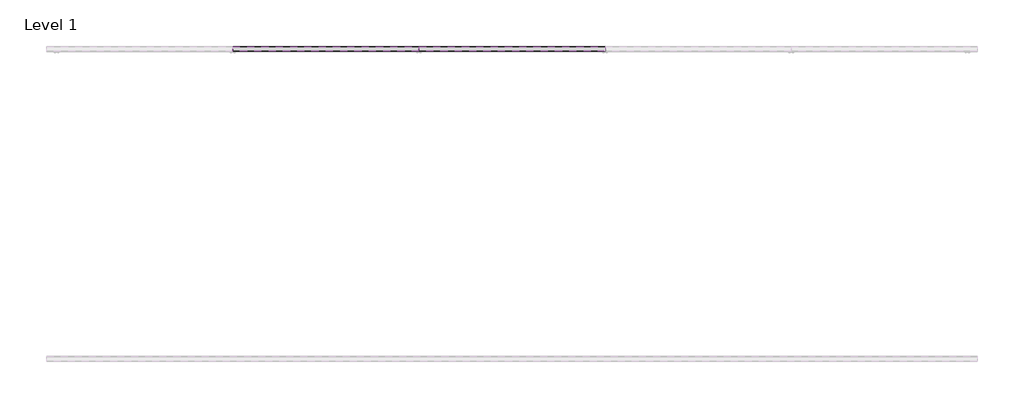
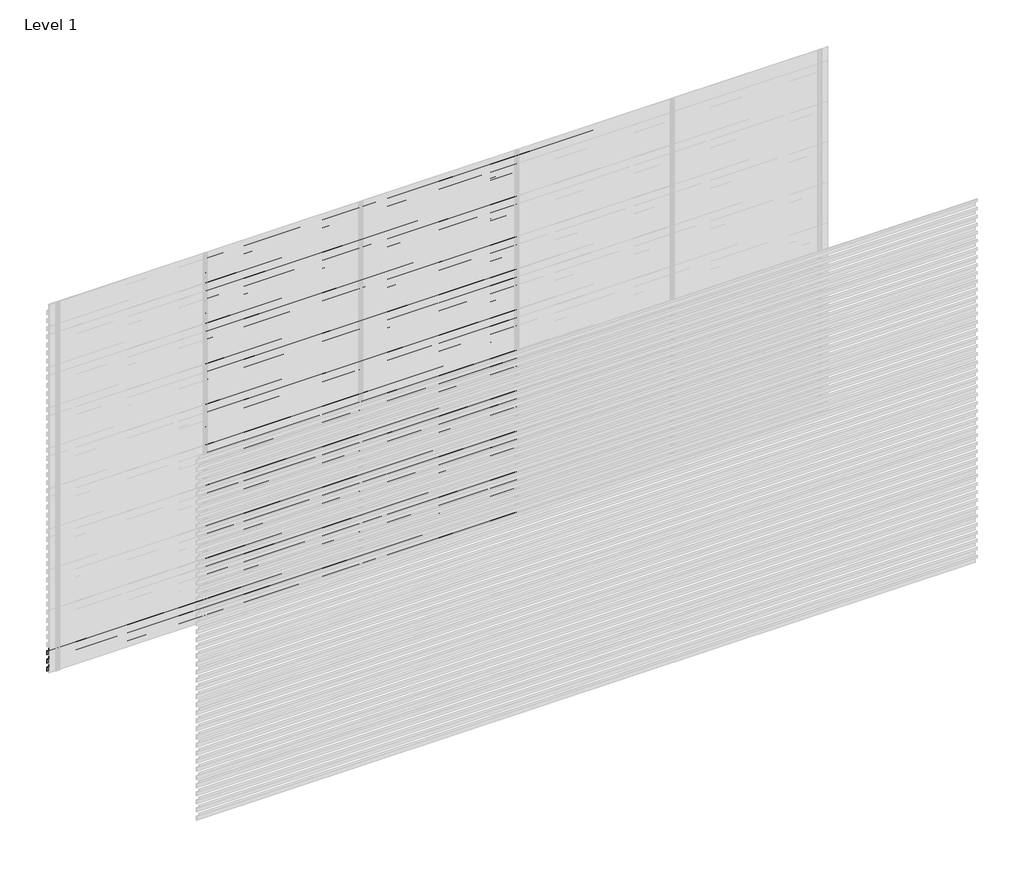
# One storey, part 32 of 33: 94 proxies.
"""IFC4 building model written with IfcOpenShell, lengths in millimetres."""

from ifc_helpers import new_model, si_unit, frame, origin, place, context, project, spatial, polyline, outline, extrude, element, save

model = new_model("IFC4")

# Units and contexts
model_context = context("Model", 3, world=origin())
ifc_project = project(units=[si_unit("LENGTHUNIT", "METRE", prefix="MILLI")], contexts=[model_context])

# Site, building, storey
site = spatial("IfcSite", under=ifc_project)
building = spatial("IfcBuilding", under=site)
storey = spatial("IfcBuildingStorey", under=building, Name="Level 1", Elevation=0.0)

# Proxies
placement = place(None, origin())
element("IfcBuildingElementProxy", 1, Name="Wall Sweeps", at=placement, inside=storey, context=model_context, shape_type="SweptSolid", body=[
    extrude(outline(polyline([(33.0, 158.0), (33.0, 125.0), (31.75, 125.7216933), (31.75, 157.2872415), (2.0, 178.0588647), (2.0, 198.0), (3.25, 198.0), (3.25, 178.7716232), (33.0, 158.0)])), frame((0.0, 0.0, 0.0), z_axis=(1.0, 0.0, 0.0), x_axis=(0.0, 1.0, 0.0)), (0.0, 0.0, 1.0), 1200.0),
])
element("IfcBuildingElementProxy", 2, Name="Wall Sweeps", at=placement, inside=storey, context=model_context, shape_type="SweptSolid", body=[
    extrude(outline(polyline([(33.0, 92.0), (33.0, 59.0), (31.75, 59.7216933), (31.75, 91.2872415), (2.0, 112.0588647), (2.0, 132.0), (3.25, 132.0), (3.25, 112.7716232), (33.0, 92.0)])), frame((0.0, 0.0, 0.0), z_axis=(1.0, 0.0, 0.0), x_axis=(0.0, 1.0, 0.0)), (0.0, 0.0, 1.0), 1200.0),
])
element("IfcBuildingElementProxy", 3, Name="Wall Sweeps", at=placement, inside=storey, context=model_context, shape_type="SweptSolid", body=[
    extrude(outline(polyline([(33.0, 26.0), (33.0, -7.0), (31.75, -6.2783067), (31.75, 25.2872415), (2.0, 46.0588647), (2.0, 66.0), (3.25, 66.0), (3.25, 46.7716232), (33.0, 26.0)])), frame((0.0, 0.0, 0.0), z_axis=(1.0, 0.0, 0.0), x_axis=(0.0, 1.0, 0.0)), (0.0, 0.0, 1.0), 1200.0),
])
element("IfcBuildingElementProxy", 4, Name="Wall Sweeps", at=placement, inside=storey, context=model_context, shape_type="SweptSolid", body=[
    extrude(outline(polyline([(33.0, 2930.0), (33.0, 2897.0), (31.75, 2897.7216933), (31.75, 2929.2872415), (2.0, 2950.0588647), (2.0, 2970.0), (3.25, 2970.0), (3.25, 2950.7716232), (33.0, 2930.0)])), frame((1200.0, 0.0, 0.0), z_axis=(1.0, 0.0, 0.0), x_axis=(0.0, 1.0, 0.0)), (0.0, 0.0, 1.0), 1200.0),
])
element("IfcBuildingElementProxy", 5, Name="Wall Sweeps", at=placement, inside=storey, context=model_context, shape_type="SweptSolid", body=[
    extrude(outline(polyline([(33.0, 2864.0), (33.0, 2831.0), (31.75, 2831.7216933), (31.75, 2863.2872415), (2.0, 2884.0588647), (2.0, 2904.0), (3.25, 2904.0), (3.25, 2884.7716232), (33.0, 2864.0)])), frame((1200.0, 0.0, 0.0), z_axis=(1.0, 0.0, 0.0), x_axis=(0.0, 1.0, 0.0)), (0.0, 0.0, 1.0), 1200.0),
])
element("IfcBuildingElementProxy", 6, Name="Wall Sweeps", at=placement, inside=storey, context=model_context, shape_type="SweptSolid", body=[
    extrude(outline(polyline([(33.0, 2798.0), (33.0, 2765.0), (31.75, 2765.7216933), (31.75, 2797.2872415), (2.0, 2818.0588647), (2.0, 2838.0), (3.25, 2838.0), (3.25, 2818.7716232), (33.0, 2798.0)])), frame((1200.0, 0.0, 0.0), z_axis=(1.0, 0.0, 0.0), x_axis=(0.0, 1.0, 0.0)), (0.0, 0.0, 1.0), 1200.0),
])
element("IfcBuildingElementProxy", 7, Name="Wall Sweeps", at=placement, inside=storey, context=model_context, shape_type="SweptSolid", body=[
    extrude(outline(polyline([(33.0, 2732.0), (33.0, 2699.0), (31.75, 2699.7216933), (31.75, 2731.2872415), (2.0, 2752.0588647), (2.0, 2772.0), (3.25, 2772.0), (3.25, 2752.7716232), (33.0, 2732.0)])), frame((1200.0, 0.0, 0.0), z_axis=(1.0, 0.0, 0.0), x_axis=(0.0, 1.0, 0.0)), (0.0, 0.0, 1.0), 1200.0),
])
element("IfcBuildingElementProxy", 8, Name="Wall Sweeps", at=placement, inside=storey, context=model_context, shape_type="SweptSolid", body=[
    extrude(outline(polyline([(33.0, 2666.0), (33.0, 2633.0), (31.75, 2633.7216933), (31.75, 2665.2872415), (2.0, 2686.0588647), (2.0, 2706.0), (3.25, 2706.0), (3.25, 2686.7716232), (33.0, 2666.0)])), frame((1200.0, 0.0, 0.0), z_axis=(1.0, 0.0, 0.0), x_axis=(0.0, 1.0, 0.0)), (0.0, 0.0, 1.0), 1200.0),
])
element("IfcBuildingElementProxy", 9, Name="Wall Sweeps", at=placement, inside=storey, context=model_context, shape_type="SweptSolid", body=[
    extrude(outline(polyline([(33.0, 2600.0), (33.0, 2567.0), (31.75, 2567.7216933), (31.75, 2599.2872415), (2.0, 2620.0588647), (2.0, 2640.0), (3.25, 2640.0), (3.25, 2620.7716232), (33.0, 2600.0)])), frame((1200.0, 0.0, 0.0), z_axis=(1.0, 0.0, 0.0), x_axis=(0.0, 1.0, 0.0)), (0.0, 0.0, 1.0), 1200.0),
])
element("IfcBuildingElementProxy", 10, Name="Wall Sweeps", at=placement, inside=storey, context=model_context, shape_type="SweptSolid", body=[
    extrude(outline(polyline([(33.0, 2534.0), (33.0, 2501.0), (31.75, 2501.7216933), (31.75, 2533.2872415), (2.0, 2554.0588647), (2.0, 2574.0), (3.25, 2574.0), (3.25, 2554.7716232), (33.0, 2534.0)])), frame((1200.0, 0.0, 0.0), z_axis=(1.0, 0.0, 0.0), x_axis=(0.0, 1.0, 0.0)), (0.0, 0.0, 1.0), 1200.0),
])
element("IfcBuildingElementProxy", 11, Name="Wall Sweeps", at=placement, inside=storey, context=model_context, shape_type="SweptSolid", body=[
    extrude(outline(polyline([(33.0, 2468.0), (33.0, 2435.0), (31.75, 2435.7216933), (31.75, 2467.2872415), (2.0, 2488.0588647), (2.0, 2508.0), (3.25, 2508.0), (3.25, 2488.7716232), (33.0, 2468.0)])), frame((1200.0, 0.0, 0.0), z_axis=(1.0, 0.0, 0.0), x_axis=(0.0, 1.0, 0.0)), (0.0, 0.0, 1.0), 1200.0),
])
element("IfcBuildingElementProxy", 12, Name="Wall Sweeps", at=placement, inside=storey, context=model_context, shape_type="SweptSolid", body=[
    extrude(outline(polyline([(33.0, 2402.0), (33.0, 2369.0), (31.75, 2369.7216933), (31.75, 2401.2872415), (2.0, 2422.0588647), (2.0, 2442.0), (3.25, 2442.0), (3.25, 2422.7716232), (33.0, 2402.0)])), frame((1200.0, 0.0, 0.0), z_axis=(1.0, 0.0, 0.0), x_axis=(0.0, 1.0, 0.0)), (0.0, 0.0, 1.0), 1200.0),
])
element("IfcBuildingElementProxy", 13, Name="Wall Sweeps", at=placement, inside=storey, context=model_context, shape_type="SweptSolid", body=[
    extrude(outline(polyline([(33.0, 2336.0), (33.0, 2303.0), (31.75, 2303.7216933), (31.75, 2335.2872415), (2.0, 2356.0588647), (2.0, 2376.0), (3.25, 2376.0), (3.25, 2356.7716232), (33.0, 2336.0)])), frame((1200.0, 0.0, 0.0), z_axis=(1.0, 0.0, 0.0), x_axis=(0.0, 1.0, 0.0)), (0.0, 0.0, 1.0), 1200.0),
])
element("IfcBuildingElementProxy", 14, Name="Wall Sweeps", at=placement, inside=storey, context=model_context, shape_type="SweptSolid", body=[
    extrude(outline(polyline([(33.0, 2270.0), (33.0, 2237.0), (31.75, 2237.7216933), (31.75, 2269.2872415), (2.0, 2290.0588647), (2.0, 2310.0), (3.25, 2310.0), (3.25, 2290.7716232), (33.0, 2270.0)])), frame((1200.0, 0.0, 0.0), z_axis=(1.0, 0.0, 0.0), x_axis=(0.0, 1.0, 0.0)), (0.0, 0.0, 1.0), 1200.0),
])
element("IfcBuildingElementProxy", 15, Name="Wall Sweeps", at=placement, inside=storey, context=model_context, shape_type="SweptSolid", body=[
    extrude(outline(polyline([(33.0, 2204.0), (33.0, 2171.0), (31.75, 2171.7216933), (31.75, 2203.2872415), (2.0, 2224.0588647), (2.0, 2244.0), (3.25, 2244.0), (3.25, 2224.7716232), (33.0, 2204.0)])), frame((1200.0, 0.0, 0.0), z_axis=(1.0, 0.0, 0.0), x_axis=(0.0, 1.0, 0.0)), (0.0, 0.0, 1.0), 1200.0),
])
element("IfcBuildingElementProxy", 16, Name="Wall Sweeps", at=placement, inside=storey, context=model_context, shape_type="SweptSolid", body=[
    extrude(outline(polyline([(33.0, 2138.0), (33.0, 2105.0), (31.75, 2105.7216933), (31.75, 2137.2872415), (2.0, 2158.0588647), (2.0, 2178.0), (3.25, 2178.0), (3.25, 2158.7716232), (33.0, 2138.0)])), frame((1200.0, 0.0, 0.0), z_axis=(1.0, 0.0, 0.0), x_axis=(0.0, 1.0, 0.0)), (0.0, 0.0, 1.0), 1200.0),
])
element("IfcBuildingElementProxy", 17, Name="Wall Sweeps", at=placement, inside=storey, context=model_context, shape_type="SweptSolid", body=[
    extrude(outline(polyline([(33.0, 2072.0), (33.0, 2039.0), (31.75, 2039.7216933), (31.75, 2071.2872415), (2.0, 2092.0588647), (2.0, 2112.0), (3.25, 2112.0), (3.25, 2092.7716232), (33.0, 2072.0)])), frame((1200.0, 0.0, 0.0), z_axis=(1.0, 0.0, 0.0), x_axis=(0.0, 1.0, 0.0)), (0.0, 0.0, 1.0), 1200.0),
])
element("IfcBuildingElementProxy", 18, Name="Wall Sweeps", at=placement, inside=storey, context=model_context, shape_type="SweptSolid", body=[
    extrude(outline(polyline([(33.0, 2006.0), (33.0, 1973.0), (31.75, 1973.7216933), (31.75, 2005.2872415), (2.0, 2026.0588647), (2.0, 2046.0), (3.25, 2046.0), (3.25, 2026.7716232), (33.0, 2006.0)])), frame((1200.0, 0.0, 0.0), z_axis=(1.0, 0.0, 0.0), x_axis=(0.0, 1.0, 0.0)), (0.0, 0.0, 1.0), 1200.0),
])
element("IfcBuildingElementProxy", 19, Name="Wall Sweeps", at=placement, inside=storey, context=model_context, shape_type="SweptSolid", body=[
    extrude(outline(polyline([(33.0, 1940.0), (33.0, 1907.0), (31.75, 1907.7216933), (31.75, 1939.2872415), (2.0, 1960.0588647), (2.0, 1980.0), (3.25, 1980.0), (3.25, 1960.7716232), (33.0, 1940.0)])), frame((1200.0, 0.0, 0.0), z_axis=(1.0, 0.0, 0.0), x_axis=(0.0, 1.0, 0.0)), (0.0, 0.0, 1.0), 1200.0),
])
element("IfcBuildingElementProxy", 20, Name="Wall Sweeps", at=placement, inside=storey, context=model_context, shape_type="SweptSolid", body=[
    extrude(outline(polyline([(33.0, 1874.0), (33.0, 1841.0), (31.75, 1841.7216933), (31.75, 1873.2872415), (2.0, 1894.0588647), (2.0, 1914.0), (3.25, 1914.0), (3.25, 1894.7716232), (33.0, 1874.0)])), frame((1200.0, 0.0, 0.0), z_axis=(1.0, 0.0, 0.0), x_axis=(0.0, 1.0, 0.0)), (0.0, 0.0, 1.0), 1200.0),
])
element("IfcBuildingElementProxy", 21, Name="Wall Sweeps", at=placement, inside=storey, context=model_context, shape_type="SweptSolid", body=[
    extrude(outline(polyline([(33.0, 1808.0), (33.0, 1775.0), (31.75, 1775.7216933), (31.75, 1807.2872415), (2.0, 1828.0588647), (2.0, 1848.0), (3.25, 1848.0), (3.25, 1828.7716232), (33.0, 1808.0)])), frame((1200.0, 0.0, 0.0), z_axis=(1.0, 0.0, 0.0), x_axis=(0.0, 1.0, 0.0)), (0.0, 0.0, 1.0), 1200.0),
])
element("IfcBuildingElementProxy", 22, Name="Wall Sweeps", at=placement, inside=storey, context=model_context, shape_type="SweptSolid", body=[
    extrude(outline(polyline([(33.0, 1742.0), (33.0, 1709.0), (31.75, 1709.7216933), (31.75, 1741.2872415), (2.0, 1762.0588647), (2.0, 1782.0), (3.25, 1782.0), (3.25, 1762.7716232), (33.0, 1742.0)])), frame((1200.0, 0.0, 0.0), z_axis=(1.0, 0.0, 0.0), x_axis=(0.0, 1.0, 0.0)), (0.0, 0.0, 1.0), 1200.0),
])
element("IfcBuildingElementProxy", 23, Name="Wall Sweeps", at=placement, inside=storey, context=model_context, shape_type="SweptSolid", body=[
    extrude(outline(polyline([(33.0, 1676.0), (33.0, 1643.0), (31.75, 1643.7216933), (31.75, 1675.2872415), (2.0, 1696.0588647), (2.0, 1716.0), (3.25, 1716.0), (3.25, 1696.7716232), (33.0, 1676.0)])), frame((1200.0, 0.0, 0.0), z_axis=(1.0, 0.0, 0.0), x_axis=(0.0, 1.0, 0.0)), (0.0, 0.0, 1.0), 1200.0),
])
element("IfcBuildingElementProxy", 24, Name="Wall Sweeps", at=placement, inside=storey, context=model_context, shape_type="SweptSolid", body=[
    extrude(outline(polyline([(33.0, 1610.0), (33.0, 1577.0), (31.75, 1577.7216933), (31.75, 1609.2872415), (2.0, 1630.0588647), (2.0, 1650.0), (3.25, 1650.0), (3.25, 1630.7716232), (33.0, 1610.0)])), frame((1200.0, 0.0, 0.0), z_axis=(1.0, 0.0, 0.0), x_axis=(0.0, 1.0, 0.0)), (0.0, 0.0, 1.0), 1200.0),
])
element("IfcBuildingElementProxy", 25, Name="Wall Sweeps", at=placement, inside=storey, context=model_context, shape_type="SweptSolid", body=[
    extrude(outline(polyline([(33.0, 1544.0), (33.0, 1511.0), (31.75, 1511.7216933), (31.75, 1543.2872415), (2.0, 1564.0588647), (2.0, 1584.0), (3.25, 1584.0), (3.25, 1564.7716232), (33.0, 1544.0)])), frame((1200.0, 0.0, 0.0), z_axis=(1.0, 0.0, 0.0), x_axis=(0.0, 1.0, 0.0)), (0.0, 0.0, 1.0), 1200.0),
])
element("IfcBuildingElementProxy", 26, Name="Wall Sweeps", at=placement, inside=storey, context=model_context, shape_type="SweptSolid", body=[
    extrude(outline(polyline([(33.0, 1478.0), (33.0, 1445.0), (31.75, 1445.7216933), (31.75, 1477.2872415), (2.0, 1498.0588647), (2.0, 1518.0), (3.25, 1518.0), (3.25, 1498.7716232), (33.0, 1478.0)])), frame((1200.0, 0.0, 0.0), z_axis=(1.0, 0.0, 0.0), x_axis=(0.0, 1.0, 0.0)), (0.0, 0.0, 1.0), 1200.0),
])
element("IfcBuildingElementProxy", 27, Name="Wall Sweeps", at=placement, inside=storey, context=model_context, shape_type="SweptSolid", body=[
    extrude(outline(polyline([(33.0, 1412.0), (33.0, 1379.0), (31.75, 1379.7216933), (31.75, 1411.2872415), (2.0, 1432.0588647), (2.0, 1452.0), (3.25, 1452.0), (3.25, 1432.7716232), (33.0, 1412.0)])), frame((1200.0, 0.0, 0.0), z_axis=(1.0, 0.0, 0.0), x_axis=(0.0, 1.0, 0.0)), (0.0, 0.0, 1.0), 1200.0),
])
element("IfcBuildingElementProxy", 28, Name="Wall Sweeps", at=placement, inside=storey, context=model_context, shape_type="SweptSolid", body=[
    extrude(outline(polyline([(33.0, 1346.0), (33.0, 1313.0), (31.75, 1313.7216933), (31.75, 1345.2872415), (2.0, 1366.0588647), (2.0, 1386.0), (3.25, 1386.0), (3.25, 1366.7716232), (33.0, 1346.0)])), frame((1200.0, 0.0, 0.0), z_axis=(1.0, 0.0, 0.0), x_axis=(0.0, 1.0, 0.0)), (0.0, 0.0, 1.0), 1200.0),
])
element("IfcBuildingElementProxy", 29, Name="Wall Sweeps", at=placement, inside=storey, context=model_context, shape_type="SweptSolid", body=[
    extrude(outline(polyline([(33.0, 1280.0), (33.0, 1247.0), (31.75, 1247.7216933), (31.75, 1279.2872415), (2.0, 1300.0588647), (2.0, 1320.0), (3.25, 1320.0), (3.25, 1300.7716232), (33.0, 1280.0)])), frame((1200.0, 0.0, 0.0), z_axis=(1.0, 0.0, 0.0), x_axis=(0.0, 1.0, 0.0)), (0.0, 0.0, 1.0), 1200.0),
])
element("IfcBuildingElementProxy", 30, Name="Wall Sweeps", at=placement, inside=storey, context=model_context, shape_type="SweptSolid", body=[
    extrude(outline(polyline([(33.0, 1214.0), (33.0, 1181.0), (31.75, 1181.7216933), (31.75, 1213.2872415), (2.0, 1234.0588647), (2.0, 1254.0), (3.25, 1254.0), (3.25, 1234.7716232), (33.0, 1214.0)])), frame((1200.0, 0.0, 0.0), z_axis=(1.0, 0.0, 0.0), x_axis=(0.0, 1.0, 0.0)), (0.0, 0.0, 1.0), 1200.0),
])
element("IfcBuildingElementProxy", 31, Name="Wall Sweeps", at=placement, inside=storey, context=model_context, shape_type="SweptSolid", body=[
    extrude(outline(polyline([(33.0, 1148.0), (33.0, 1115.0), (31.75, 1115.7216933), (31.75, 1147.2872415), (2.0, 1168.0588647), (2.0, 1188.0), (3.25, 1188.0), (3.25, 1168.7716232), (33.0, 1148.0)])), frame((1200.0, 0.0, 0.0), z_axis=(1.0, 0.0, 0.0), x_axis=(0.0, 1.0, 0.0)), (0.0, 0.0, 1.0), 1200.0),
])
element("IfcBuildingElementProxy", 32, Name="Wall Sweeps", at=placement, inside=storey, context=model_context, shape_type="SweptSolid", body=[
    extrude(outline(polyline([(33.0, 1082.0), (33.0, 1049.0), (31.75, 1049.7216933), (31.75, 1081.2872415), (2.0, 1102.0588647), (2.0, 1122.0), (3.25, 1122.0), (3.25, 1102.7716232), (33.0, 1082.0)])), frame((1200.0, 0.0, 0.0), z_axis=(1.0, 0.0, 0.0), x_axis=(0.0, 1.0, 0.0)), (0.0, 0.0, 1.0), 1200.0),
])
element("IfcBuildingElementProxy", 33, Name="Wall Sweeps", at=placement, inside=storey, context=model_context, shape_type="SweptSolid", body=[
    extrude(outline(polyline([(33.0, 1016.0), (33.0, 983.0), (31.75, 983.7216933), (31.75, 1015.2872415), (2.0, 1036.0588647), (2.0, 1056.0), (3.25, 1056.0), (3.25, 1036.7716232), (33.0, 1016.0)])), frame((1200.0, 0.0, 0.0), z_axis=(1.0, 0.0, 0.0), x_axis=(0.0, 1.0, 0.0)), (0.0, 0.0, 1.0), 1200.0),
])
element("IfcBuildingElementProxy", 34, Name="Wall Sweeps", at=placement, inside=storey, context=model_context, shape_type="SweptSolid", body=[
    extrude(outline(polyline([(33.0, 950.0), (33.0, 917.0), (31.75, 917.7216933), (31.75, 949.2872415), (2.0, 970.0588647), (2.0, 990.0), (3.25, 990.0), (3.25, 970.7716232), (33.0, 950.0)])), frame((1200.0, 0.0, 0.0), z_axis=(1.0, 0.0, 0.0), x_axis=(0.0, 1.0, 0.0)), (0.0, 0.0, 1.0), 1200.0),
])
element("IfcBuildingElementProxy", 35, Name="Wall Sweeps", at=placement, inside=storey, context=model_context, shape_type="SweptSolid", body=[
    extrude(outline(polyline([(33.0, 884.0), (33.0, 851.0), (31.75, 851.7216933), (31.75, 883.2872415), (2.0, 904.0588647), (2.0, 924.0), (3.25, 924.0), (3.25, 904.7716232), (33.0, 884.0)])), frame((1200.0, 0.0, 0.0), z_axis=(1.0, 0.0, 0.0), x_axis=(0.0, 1.0, 0.0)), (0.0, 0.0, 1.0), 1200.0),
])
element("IfcBuildingElementProxy", 36, Name="Wall Sweeps", at=placement, inside=storey, context=model_context, shape_type="SweptSolid", body=[
    extrude(outline(polyline([(33.0, 818.0), (33.0, 785.0), (31.75, 785.7216933), (31.75, 817.2872415), (2.0, 838.0588647), (2.0, 858.0), (3.25, 858.0), (3.25, 838.7716232), (33.0, 818.0)])), frame((1200.0, 0.0, 0.0), z_axis=(1.0, 0.0, 0.0), x_axis=(0.0, 1.0, 0.0)), (0.0, 0.0, 1.0), 1200.0),
])
element("IfcBuildingElementProxy", 37, Name="Wall Sweeps", at=placement, inside=storey, context=model_context, shape_type="SweptSolid", body=[
    extrude(outline(polyline([(33.0, 752.0), (33.0, 719.0), (31.75, 719.7216933), (31.75, 751.2872415), (2.0, 772.0588647), (2.0, 792.0), (3.25, 792.0), (3.25, 772.7716232), (33.0, 752.0)])), frame((1200.0, 0.0, 0.0), z_axis=(1.0, 0.0, 0.0), x_axis=(0.0, 1.0, 0.0)), (0.0, 0.0, 1.0), 1200.0),
])
element("IfcBuildingElementProxy", 38, Name="Wall Sweeps", at=placement, inside=storey, context=model_context, shape_type="SweptSolid", body=[
    extrude(outline(polyline([(33.0, 686.0), (33.0, 653.0), (31.75, 653.7216933), (31.75, 685.2872415), (2.0, 706.0588647), (2.0, 726.0), (3.25, 726.0), (3.25, 706.7716232), (33.0, 686.0)])), frame((1200.0, 0.0, 0.0), z_axis=(1.0, 0.0, 0.0), x_axis=(0.0, 1.0, 0.0)), (0.0, 0.0, 1.0), 1200.0),
])
element("IfcBuildingElementProxy", 39, Name="Wall Sweeps", at=placement, inside=storey, context=model_context, shape_type="SweptSolid", body=[
    extrude(outline(polyline([(33.0, 620.0), (33.0, 587.0), (31.75, 587.7216933), (31.75, 619.2872415), (2.0, 640.0588647), (2.0, 660.0), (3.25, 660.0), (3.25, 640.7716232), (33.0, 620.0)])), frame((1200.0, 0.0, 0.0), z_axis=(1.0, 0.0, 0.0), x_axis=(0.0, 1.0, 0.0)), (0.0, 0.0, 1.0), 1200.0),
])
element("IfcBuildingElementProxy", 40, Name="Wall Sweeps", at=placement, inside=storey, context=model_context, shape_type="SweptSolid", body=[
    extrude(outline(polyline([(33.0, 554.0), (33.0, 521.0), (31.75, 521.7216933), (31.75, 553.2872415), (2.0, 574.0588647), (2.0, 594.0), (3.25, 594.0), (3.25, 574.7716232), (33.0, 554.0)])), frame((1200.0, 0.0, 0.0), z_axis=(1.0, 0.0, 0.0), x_axis=(0.0, 1.0, 0.0)), (0.0, 0.0, 1.0), 1200.0),
])
element("IfcBuildingElementProxy", 41, Name="Wall Sweeps", at=placement, inside=storey, context=model_context, shape_type="SweptSolid", body=[
    extrude(outline(polyline([(33.0, 488.0), (33.0, 455.0), (31.75, 455.7216933), (31.75, 487.2872415), (2.0, 508.0588647), (2.0, 528.0), (3.25, 528.0), (3.25, 508.7716232), (33.0, 488.0)])), frame((1200.0, 0.0, 0.0), z_axis=(1.0, 0.0, 0.0), x_axis=(0.0, 1.0, 0.0)), (0.0, 0.0, 1.0), 1200.0),
])
element("IfcBuildingElementProxy", 42, Name="Wall Sweeps", at=placement, inside=storey, context=model_context, shape_type="SweptSolid", body=[
    extrude(outline(polyline([(33.0, 422.0), (33.0, 389.0), (31.75, 389.7216933), (31.75, 421.2872415), (2.0, 442.0588647), (2.0, 462.0), (3.25, 462.0), (3.25, 442.7716232), (33.0, 422.0)])), frame((1200.0, 0.0, 0.0), z_axis=(1.0, 0.0, 0.0), x_axis=(0.0, 1.0, 0.0)), (0.0, 0.0, 1.0), 1200.0),
])
element("IfcBuildingElementProxy", 43, Name="Wall Sweeps", at=placement, inside=storey, context=model_context, shape_type="SweptSolid", body=[
    extrude(outline(polyline([(33.0, 356.0), (33.0, 323.0), (31.75, 323.7216933), (31.75, 355.2872415), (2.0, 376.0588647), (2.0, 396.0), (3.25, 396.0), (3.25, 376.7716232), (33.0, 356.0)])), frame((1200.0, 0.0, 0.0), z_axis=(1.0, 0.0, 0.0), x_axis=(0.0, 1.0, 0.0)), (0.0, 0.0, 1.0), 1200.0),
])
element("IfcBuildingElementProxy", 44, Name="Wall Sweeps", at=placement, inside=storey, context=model_context, shape_type="SweptSolid", body=[
    extrude(outline(polyline([(33.0, 290.0), (33.0, 257.0), (31.75, 257.7216933), (31.75, 289.2872415), (2.0, 310.0588647), (2.0, 330.0), (3.25, 330.0), (3.25, 310.7716232), (33.0, 290.0)])), frame((1200.0, 0.0, 0.0), z_axis=(1.0, 0.0, 0.0), x_axis=(0.0, 1.0, 0.0)), (0.0, 0.0, 1.0), 1200.0),
])
element("IfcBuildingElementProxy", 45, Name="Wall Sweeps", at=placement, inside=storey, context=model_context, shape_type="SweptSolid", body=[
    extrude(outline(polyline([(33.0, 224.0), (33.0, 191.0), (31.75, 191.7216933), (31.75, 223.2872415), (2.0, 244.0588647), (2.0, 264.0), (3.25, 264.0), (3.25, 244.7716232), (33.0, 224.0)])), frame((1200.0, 0.0, 0.0), z_axis=(1.0, 0.0, 0.0), x_axis=(0.0, 1.0, 0.0)), (0.0, 0.0, 1.0), 1200.0),
])
element("IfcBuildingElementProxy", 46, Name="Wall Sweeps", at=placement, inside=storey, context=model_context, shape_type="SweptSolid", body=[
    extrude(outline(polyline([(33.0, 158.0), (33.0, 125.0), (31.75, 125.7216933), (31.75, 157.2872415), (2.0, 178.0588647), (2.0, 198.0), (3.25, 198.0), (3.25, 178.7716232), (33.0, 158.0)])), frame((1200.0, 0.0, 0.0), z_axis=(1.0, 0.0, 0.0), x_axis=(0.0, 1.0, 0.0)), (0.0, 0.0, 1.0), 1200.0),
])
element("IfcBuildingElementProxy", 47, Name="Wall Sweeps", at=placement, inside=storey, context=model_context, shape_type="SweptSolid", body=[
    extrude(outline(polyline([(33.0, 92.0), (33.0, 59.0), (31.75, 59.7216933), (31.75, 91.2872415), (2.0, 112.0588647), (2.0, 132.0), (3.25, 132.0), (3.25, 112.7716232), (33.0, 92.0)])), frame((1200.0, 0.0, 0.0), z_axis=(1.0, 0.0, 0.0), x_axis=(0.0, 1.0, 0.0)), (0.0, 0.0, 1.0), 1200.0),
])
element("IfcBuildingElementProxy", 48, Name="Wall Sweeps", at=placement, inside=storey, context=model_context, shape_type="SweptSolid", body=[
    extrude(outline(polyline([(33.0, 26.0), (33.0, -7.0), (31.75, -6.2783067), (31.75, 25.2872415), (2.0, 46.0588647), (2.0, 66.0), (3.25, 66.0), (3.25, 46.7716232), (33.0, 26.0)])), frame((1200.0, 0.0, 0.0), z_axis=(1.0, 0.0, 0.0), x_axis=(0.0, 1.0, 0.0)), (0.0, 0.0, 1.0), 1200.0),
])
element("IfcBuildingElementProxy", 49, Name="Wall Sweeps", at=placement, inside=storey, context=model_context, shape_type="SweptSolid", body=[
    extrude(outline(polyline([(33.0, 2930.0), (33.0, 2897.0), (31.75, 2897.7216933), (31.75, 2929.2872415), (2.0, 2950.0588647), (2.0, 2970.0), (3.25, 2970.0), (3.25, 2950.7716232), (33.0, 2930.0)])), frame((2400.0, 0.0, 0.0), z_axis=(1.0, 0.0, 0.0), x_axis=(0.0, 1.0, 0.0)), (0.0, 0.0, 1.0), 1200.0),
])
element("IfcBuildingElementProxy", 50, Name="Wall Sweeps", at=placement, inside=storey, context=model_context, shape_type="SweptSolid", body=[
    extrude(outline(polyline([(33.0, 2864.0), (33.0, 2831.0), (31.75, 2831.7216933), (31.75, 2863.2872415), (2.0, 2884.0588647), (2.0, 2904.0), (3.25, 2904.0), (3.25, 2884.7716232), (33.0, 2864.0)])), frame((2400.0, 0.0, 0.0), z_axis=(1.0, 0.0, 0.0), x_axis=(0.0, 1.0, 0.0)), (0.0, 0.0, 1.0), 1200.0),
])
element("IfcBuildingElementProxy", 51, Name="Wall Sweeps", at=placement, inside=storey, context=model_context, shape_type="SweptSolid", body=[
    extrude(outline(polyline([(33.0, 2798.0), (33.0, 2765.0), (31.75, 2765.7216933), (31.75, 2797.2872415), (2.0, 2818.0588647), (2.0, 2838.0), (3.25, 2838.0), (3.25, 2818.7716232), (33.0, 2798.0)])), frame((2400.0, 0.0, 0.0), z_axis=(1.0, 0.0, 0.0), x_axis=(0.0, 1.0, 0.0)), (0.0, 0.0, 1.0), 1200.0),
])
element("IfcBuildingElementProxy", 52, Name="Wall Sweeps", at=placement, inside=storey, context=model_context, shape_type="SweptSolid", body=[
    extrude(outline(polyline([(33.0, 2732.0), (33.0, 2699.0), (31.75, 2699.7216933), (31.75, 2731.2872415), (2.0, 2752.0588647), (2.0, 2772.0), (3.25, 2772.0), (3.25, 2752.7716232), (33.0, 2732.0)])), frame((2400.0, 0.0, 0.0), z_axis=(1.0, 0.0, 0.0), x_axis=(0.0, 1.0, 0.0)), (0.0, 0.0, 1.0), 1200.0),
])
element("IfcBuildingElementProxy", 53, Name="Wall Sweeps", at=placement, inside=storey, context=model_context, shape_type="SweptSolid", body=[
    extrude(outline(polyline([(33.0, 2666.0), (33.0, 2633.0), (31.75, 2633.7216933), (31.75, 2665.2872415), (2.0, 2686.0588647), (2.0, 2706.0), (3.25, 2706.0), (3.25, 2686.7716232), (33.0, 2666.0)])), frame((2400.0, 0.0, 0.0), z_axis=(1.0, 0.0, 0.0), x_axis=(0.0, 1.0, 0.0)), (0.0, 0.0, 1.0), 1200.0),
])
element("IfcBuildingElementProxy", 54, Name="Wall Sweeps", at=placement, inside=storey, context=model_context, shape_type="SweptSolid", body=[
    extrude(outline(polyline([(33.0, 2600.0), (33.0, 2567.0), (31.75, 2567.7216933), (31.75, 2599.2872415), (2.0, 2620.0588647), (2.0, 2640.0), (3.25, 2640.0), (3.25, 2620.7716232), (33.0, 2600.0)])), frame((2400.0, 0.0, 0.0), z_axis=(1.0, 0.0, 0.0), x_axis=(0.0, 1.0, 0.0)), (0.0, 0.0, 1.0), 1200.0),
])
element("IfcBuildingElementProxy", 55, Name="Wall Sweeps", at=placement, inside=storey, context=model_context, shape_type="SweptSolid", body=[
    extrude(outline(polyline([(33.0, 2534.0), (33.0, 2501.0), (31.75, 2501.7216933), (31.75, 2533.2872415), (2.0, 2554.0588647), (2.0, 2574.0), (3.25, 2574.0), (3.25, 2554.7716232), (33.0, 2534.0)])), frame((2400.0, 0.0, 0.0), z_axis=(1.0, 0.0, 0.0), x_axis=(0.0, 1.0, 0.0)), (0.0, 0.0, 1.0), 1200.0),
])
element("IfcBuildingElementProxy", 56, Name="Wall Sweeps", at=placement, inside=storey, context=model_context, shape_type="SweptSolid", body=[
    extrude(outline(polyline([(33.0, 2468.0), (33.0, 2435.0), (31.75, 2435.7216933), (31.75, 2467.2872415), (2.0, 2488.0588647), (2.0, 2508.0), (3.25, 2508.0), (3.25, 2488.7716232), (33.0, 2468.0)])), frame((2400.0, 0.0, 0.0), z_axis=(1.0, 0.0, 0.0), x_axis=(0.0, 1.0, 0.0)), (0.0, 0.0, 1.0), 1200.0),
])
element("IfcBuildingElementProxy", 57, Name="Wall Sweeps", at=placement, inside=storey, context=model_context, shape_type="SweptSolid", body=[
    extrude(outline(polyline([(33.0, 2402.0), (33.0, 2369.0), (31.75, 2369.7216933), (31.75, 2401.2872415), (2.0, 2422.0588647), (2.0, 2442.0), (3.25, 2442.0), (3.25, 2422.7716232), (33.0, 2402.0)])), frame((2400.0, 0.0, 0.0), z_axis=(1.0, 0.0, 0.0), x_axis=(0.0, 1.0, 0.0)), (0.0, 0.0, 1.0), 1200.0),
])
element("IfcBuildingElementProxy", 58, Name="Wall Sweeps", at=placement, inside=storey, context=model_context, shape_type="SweptSolid", body=[
    extrude(outline(polyline([(33.0, 2336.0), (33.0, 2303.0), (31.75, 2303.7216933), (31.75, 2335.2872415), (2.0, 2356.0588647), (2.0, 2376.0), (3.25, 2376.0), (3.25, 2356.7716232), (33.0, 2336.0)])), frame((2400.0, 0.0, 0.0), z_axis=(1.0, 0.0, 0.0), x_axis=(0.0, 1.0, 0.0)), (0.0, 0.0, 1.0), 1200.0),
])
element("IfcBuildingElementProxy", 59, Name="Wall Sweeps", at=placement, inside=storey, context=model_context, shape_type="SweptSolid", body=[
    extrude(outline(polyline([(33.0, 2270.0), (33.0, 2237.0), (31.75, 2237.7216933), (31.75, 2269.2872415), (2.0, 2290.0588647), (2.0, 2310.0), (3.25, 2310.0), (3.25, 2290.7716232), (33.0, 2270.0)])), frame((2400.0, 0.0, 0.0), z_axis=(1.0, 0.0, 0.0), x_axis=(0.0, 1.0, 0.0)), (0.0, 0.0, 1.0), 1200.0),
])
element("IfcBuildingElementProxy", 60, Name="Wall Sweeps", at=placement, inside=storey, context=model_context, shape_type="SweptSolid", body=[
    extrude(outline(polyline([(33.0, 2204.0), (33.0, 2171.0), (31.75, 2171.7216933), (31.75, 2203.2872415), (2.0, 2224.0588647), (2.0, 2244.0), (3.25, 2244.0), (3.25, 2224.7716232), (33.0, 2204.0)])), frame((2400.0, 0.0, 0.0), z_axis=(1.0, 0.0, 0.0), x_axis=(0.0, 1.0, 0.0)), (0.0, 0.0, 1.0), 1200.0),
])
element("IfcBuildingElementProxy", 61, Name="Wall Sweeps", at=placement, inside=storey, context=model_context, shape_type="SweptSolid", body=[
    extrude(outline(polyline([(33.0, 2138.0), (33.0, 2105.0), (31.75, 2105.7216933), (31.75, 2137.2872415), (2.0, 2158.0588647), (2.0, 2178.0), (3.25, 2178.0), (3.25, 2158.7716232), (33.0, 2138.0)])), frame((2400.0, 0.0, 0.0), z_axis=(1.0, 0.0, 0.0), x_axis=(0.0, 1.0, 0.0)), (0.0, 0.0, 1.0), 1200.0),
])
element("IfcBuildingElementProxy", 62, Name="Wall Sweeps", at=placement, inside=storey, context=model_context, shape_type="SweptSolid", body=[
    extrude(outline(polyline([(33.0, 2072.0), (33.0, 2039.0), (31.75, 2039.7216933), (31.75, 2071.2872415), (2.0, 2092.0588647), (2.0, 2112.0), (3.25, 2112.0), (3.25, 2092.7716232), (33.0, 2072.0)])), frame((2400.0, 0.0, 0.0), z_axis=(1.0, 0.0, 0.0), x_axis=(0.0, 1.0, 0.0)), (0.0, 0.0, 1.0), 1200.0),
])
element("IfcBuildingElementProxy", 63, Name="Wall Sweeps", at=placement, inside=storey, context=model_context, shape_type="SweptSolid", body=[
    extrude(outline(polyline([(33.0, 2006.0), (33.0, 1973.0), (31.75, 1973.7216933), (31.75, 2005.2872415), (2.0, 2026.0588647), (2.0, 2046.0), (3.25, 2046.0), (3.25, 2026.7716232), (33.0, 2006.0)])), frame((2400.0, 0.0, 0.0), z_axis=(1.0, 0.0, 0.0), x_axis=(0.0, 1.0, 0.0)), (0.0, 0.0, 1.0), 1200.0),
])
element("IfcBuildingElementProxy", 64, Name="Wall Sweeps", at=placement, inside=storey, context=model_context, shape_type="SweptSolid", body=[
    extrude(outline(polyline([(33.0, 1940.0), (33.0, 1907.0), (31.75, 1907.7216933), (31.75, 1939.2872415), (2.0, 1960.0588647), (2.0, 1980.0), (3.25, 1980.0), (3.25, 1960.7716232), (33.0, 1940.0)])), frame((2400.0, 0.0, 0.0), z_axis=(1.0, 0.0, 0.0), x_axis=(0.0, 1.0, 0.0)), (0.0, 0.0, 1.0), 1200.0),
])
element("IfcBuildingElementProxy", 65, Name="Wall Sweeps", at=placement, inside=storey, context=model_context, shape_type="SweptSolid", body=[
    extrude(outline(polyline([(33.0, 1874.0), (33.0, 1841.0), (31.75, 1841.7216933), (31.75, 1873.2872415), (2.0, 1894.0588647), (2.0, 1914.0), (3.25, 1914.0), (3.25, 1894.7716232), (33.0, 1874.0)])), frame((2400.0, 0.0, 0.0), z_axis=(1.0, 0.0, 0.0), x_axis=(0.0, 1.0, 0.0)), (0.0, 0.0, 1.0), 1200.0),
])
element("IfcBuildingElementProxy", 66, Name="Wall Sweeps", at=placement, inside=storey, context=model_context, shape_type="SweptSolid", body=[
    extrude(outline(polyline([(33.0, 1808.0), (33.0, 1775.0), (31.75, 1775.7216933), (31.75, 1807.2872415), (2.0, 1828.0588647), (2.0, 1848.0), (3.25, 1848.0), (3.25, 1828.7716232), (33.0, 1808.0)])), frame((2400.0, 0.0, 0.0), z_axis=(1.0, 0.0, 0.0), x_axis=(0.0, 1.0, 0.0)), (0.0, 0.0, 1.0), 1200.0),
])
element("IfcBuildingElementProxy", 67, Name="Wall Sweeps", at=placement, inside=storey, context=model_context, shape_type="SweptSolid", body=[
    extrude(outline(polyline([(33.0, 1742.0), (33.0, 1709.0), (31.75, 1709.7216933), (31.75, 1741.2872415), (2.0, 1762.0588647), (2.0, 1782.0), (3.25, 1782.0), (3.25, 1762.7716232), (33.0, 1742.0)])), frame((2400.0, 0.0, 0.0), z_axis=(1.0, 0.0, 0.0), x_axis=(0.0, 1.0, 0.0)), (0.0, 0.0, 1.0), 1200.0),
])
element("IfcBuildingElementProxy", 68, Name="Wall Sweeps", at=placement, inside=storey, context=model_context, shape_type="SweptSolid", body=[
    extrude(outline(polyline([(33.0, 1676.0), (33.0, 1643.0), (31.75, 1643.7216933), (31.75, 1675.2872415), (2.0, 1696.0588647), (2.0, 1716.0), (3.25, 1716.0), (3.25, 1696.7716232), (33.0, 1676.0)])), frame((2400.0, 0.0, 0.0), z_axis=(1.0, 0.0, 0.0), x_axis=(0.0, 1.0, 0.0)), (0.0, 0.0, 1.0), 1200.0),
])
element("IfcBuildingElementProxy", 69, Name="Wall Sweeps", at=placement, inside=storey, context=model_context, shape_type="SweptSolid", body=[
    extrude(outline(polyline([(33.0, 1610.0), (33.0, 1577.0), (31.75, 1577.7216933), (31.75, 1609.2872415), (2.0, 1630.0588647), (2.0, 1650.0), (3.25, 1650.0), (3.25, 1630.7716232), (33.0, 1610.0)])), frame((2400.0, 0.0, 0.0), z_axis=(1.0, 0.0, 0.0), x_axis=(0.0, 1.0, 0.0)), (0.0, 0.0, 1.0), 1200.0),
])
element("IfcBuildingElementProxy", 70, Name="Wall Sweeps", at=placement, inside=storey, context=model_context, shape_type="SweptSolid", body=[
    extrude(outline(polyline([(33.0, 1544.0), (33.0, 1511.0), (31.75, 1511.7216933), (31.75, 1543.2872415), (2.0, 1564.0588647), (2.0, 1584.0), (3.25, 1584.0), (3.25, 1564.7716232), (33.0, 1544.0)])), frame((2400.0, 0.0, 0.0), z_axis=(1.0, 0.0, 0.0), x_axis=(0.0, 1.0, 0.0)), (0.0, 0.0, 1.0), 1200.0),
])
element("IfcBuildingElementProxy", 71, Name="Wall Sweeps", at=placement, inside=storey, context=model_context, shape_type="SweptSolid", body=[
    extrude(outline(polyline([(33.0, 1478.0), (33.0, 1445.0), (31.75, 1445.7216933), (31.75, 1477.2872415), (2.0, 1498.0588647), (2.0, 1518.0), (3.25, 1518.0), (3.25, 1498.7716232), (33.0, 1478.0)])), frame((2400.0, 0.0, 0.0), z_axis=(1.0, 0.0, 0.0), x_axis=(0.0, 1.0, 0.0)), (0.0, 0.0, 1.0), 1200.0),
])
element("IfcBuildingElementProxy", 72, Name="Wall Sweeps", at=placement, inside=storey, context=model_context, shape_type="SweptSolid", body=[
    extrude(outline(polyline([(33.0, 1412.0), (33.0, 1379.0), (31.75, 1379.7216933), (31.75, 1411.2872415), (2.0, 1432.0588647), (2.0, 1452.0), (3.25, 1452.0), (3.25, 1432.7716232), (33.0, 1412.0)])), frame((2400.0, 0.0, 0.0), z_axis=(1.0, 0.0, 0.0), x_axis=(0.0, 1.0, 0.0)), (0.0, 0.0, 1.0), 1200.0),
])
element("IfcBuildingElementProxy", 73, Name="Wall Sweeps", at=placement, inside=storey, context=model_context, shape_type="SweptSolid", body=[
    extrude(outline(polyline([(33.0, 1346.0), (33.0, 1313.0), (31.75, 1313.7216933), (31.75, 1345.2872415), (2.0, 1366.0588647), (2.0, 1386.0), (3.25, 1386.0), (3.25, 1366.7716232), (33.0, 1346.0)])), frame((2400.0, 0.0, 0.0), z_axis=(1.0, 0.0, 0.0), x_axis=(0.0, 1.0, 0.0)), (0.0, 0.0, 1.0), 1200.0),
])
element("IfcBuildingElementProxy", 74, Name="Wall Sweeps", at=placement, inside=storey, context=model_context, shape_type="SweptSolid", body=[
    extrude(outline(polyline([(33.0, 1280.0), (33.0, 1247.0), (31.75, 1247.7216933), (31.75, 1279.2872415), (2.0, 1300.0588647), (2.0, 1320.0), (3.25, 1320.0), (3.25, 1300.7716232), (33.0, 1280.0)])), frame((2400.0, 0.0, 0.0), z_axis=(1.0, 0.0, 0.0), x_axis=(0.0, 1.0, 0.0)), (0.0, 0.0, 1.0), 1200.0),
])
element("IfcBuildingElementProxy", 75, Name="Wall Sweeps", at=placement, inside=storey, context=model_context, shape_type="SweptSolid", body=[
    extrude(outline(polyline([(33.0, 1214.0), (33.0, 1181.0), (31.75, 1181.7216933), (31.75, 1213.2872415), (2.0, 1234.0588647), (2.0, 1254.0), (3.25, 1254.0), (3.25, 1234.7716232), (33.0, 1214.0)])), frame((2400.0, 0.0, 0.0), z_axis=(1.0, 0.0, 0.0), x_axis=(0.0, 1.0, 0.0)), (0.0, 0.0, 1.0), 1200.0),
])
element("IfcBuildingElementProxy", 76, Name="Wall Sweeps", at=placement, inside=storey, context=model_context, shape_type="SweptSolid", body=[
    extrude(outline(polyline([(33.0, 1148.0), (33.0, 1115.0), (31.75, 1115.7216933), (31.75, 1147.2872415), (2.0, 1168.0588647), (2.0, 1188.0), (3.25, 1188.0), (3.25, 1168.7716232), (33.0, 1148.0)])), frame((2400.0, 0.0, 0.0), z_axis=(1.0, 0.0, 0.0), x_axis=(0.0, 1.0, 0.0)), (0.0, 0.0, 1.0), 1200.0),
])
element("IfcBuildingElementProxy", 77, Name="Wall Sweeps", at=placement, inside=storey, context=model_context, shape_type="SweptSolid", body=[
    extrude(outline(polyline([(33.0, 1082.0), (33.0, 1049.0), (31.75, 1049.7216933), (31.75, 1081.2872415), (2.0, 1102.0588647), (2.0, 1122.0), (3.25, 1122.0), (3.25, 1102.7716232), (33.0, 1082.0)])), frame((2400.0, 0.0, 0.0), z_axis=(1.0, 0.0, 0.0), x_axis=(0.0, 1.0, 0.0)), (0.0, 0.0, 1.0), 1200.0),
])
element("IfcBuildingElementProxy", 78, Name="Wall Sweeps", at=placement, inside=storey, context=model_context, shape_type="SweptSolid", body=[
    extrude(outline(polyline([(33.0, 1016.0), (33.0, 983.0), (31.75, 983.7216933), (31.75, 1015.2872415), (2.0, 1036.0588647), (2.0, 1056.0), (3.25, 1056.0), (3.25, 1036.7716232), (33.0, 1016.0)])), frame((2400.0, 0.0, 0.0), z_axis=(1.0, 0.0, 0.0), x_axis=(0.0, 1.0, 0.0)), (0.0, 0.0, 1.0), 1200.0),
])
element("IfcBuildingElementProxy", 79, Name="Wall Sweeps", at=placement, inside=storey, context=model_context, shape_type="SweptSolid", body=[
    extrude(outline(polyline([(33.0, 950.0), (33.0, 917.0), (31.75, 917.7216933), (31.75, 949.2872415), (2.0, 970.0588647), (2.0, 990.0), (3.25, 990.0), (3.25, 970.7716232), (33.0, 950.0)])), frame((2400.0, 0.0, 0.0), z_axis=(1.0, 0.0, 0.0), x_axis=(0.0, 1.0, 0.0)), (0.0, 0.0, 1.0), 1200.0),
])
element("IfcBuildingElementProxy", 80, Name="Wall Sweeps", at=placement, inside=storey, context=model_context, shape_type="SweptSolid", body=[
    extrude(outline(polyline([(33.0, 884.0), (33.0, 851.0), (31.75, 851.7216933), (31.75, 883.2872415), (2.0, 904.0588647), (2.0, 924.0), (3.25, 924.0), (3.25, 904.7716232), (33.0, 884.0)])), frame((2400.0, 0.0, 0.0), z_axis=(1.0, 0.0, 0.0), x_axis=(0.0, 1.0, 0.0)), (0.0, 0.0, 1.0), 1200.0),
])
element("IfcBuildingElementProxy", 81, Name="Wall Sweeps", at=placement, inside=storey, context=model_context, shape_type="SweptSolid", body=[
    extrude(outline(polyline([(33.0, 818.0), (33.0, 785.0), (31.75, 785.7216933), (31.75, 817.2872415), (2.0, 838.0588647), (2.0, 858.0), (3.25, 858.0), (3.25, 838.7716232), (33.0, 818.0)])), frame((2400.0, 0.0, 0.0), z_axis=(1.0, 0.0, 0.0), x_axis=(0.0, 1.0, 0.0)), (0.0, 0.0, 1.0), 1200.0),
])
element("IfcBuildingElementProxy", 82, Name="Wall Sweeps", at=placement, inside=storey, context=model_context, shape_type="SweptSolid", body=[
    extrude(outline(polyline([(33.0, 752.0), (33.0, 719.0), (31.75, 719.7216933), (31.75, 751.2872415), (2.0, 772.0588647), (2.0, 792.0), (3.25, 792.0), (3.25, 772.7716232), (33.0, 752.0)])), frame((2400.0, 0.0, 0.0), z_axis=(1.0, 0.0, 0.0), x_axis=(0.0, 1.0, 0.0)), (0.0, 0.0, 1.0), 1200.0),
])
element("IfcBuildingElementProxy", 83, Name="Wall Sweeps", at=placement, inside=storey, context=model_context, shape_type="SweptSolid", body=[
    extrude(outline(polyline([(33.0, 686.0), (33.0, 653.0), (31.75, 653.7216933), (31.75, 685.2872415), (2.0, 706.0588647), (2.0, 726.0), (3.25, 726.0), (3.25, 706.7716232), (33.0, 686.0)])), frame((2400.0, 0.0, 0.0), z_axis=(1.0, 0.0, 0.0), x_axis=(0.0, 1.0, 0.0)), (0.0, 0.0, 1.0), 1200.0),
])
element("IfcBuildingElementProxy", 84, Name="Wall Sweeps", at=placement, inside=storey, context=model_context, shape_type="SweptSolid", body=[
    extrude(outline(polyline([(33.0, 620.0), (33.0, 587.0), (31.75, 587.7216933), (31.75, 619.2872415), (2.0, 640.0588647), (2.0, 660.0), (3.25, 660.0), (3.25, 640.7716232), (33.0, 620.0)])), frame((2400.0, 0.0, 0.0), z_axis=(1.0, 0.0, 0.0), x_axis=(0.0, 1.0, 0.0)), (0.0, 0.0, 1.0), 1200.0),
])
element("IfcBuildingElementProxy", 85, Name="Wall Sweeps", at=placement, inside=storey, context=model_context, shape_type="SweptSolid", body=[
    extrude(outline(polyline([(33.0, 554.0), (33.0, 521.0), (31.75, 521.7216933), (31.75, 553.2872415), (2.0, 574.0588647), (2.0, 594.0), (3.25, 594.0), (3.25, 574.7716232), (33.0, 554.0)])), frame((2400.0, 0.0, 0.0), z_axis=(1.0, 0.0, 0.0), x_axis=(0.0, 1.0, 0.0)), (0.0, 0.0, 1.0), 1200.0),
])
element("IfcBuildingElementProxy", 86, Name="Wall Sweeps", at=placement, inside=storey, context=model_context, shape_type="SweptSolid", body=[
    extrude(outline(polyline([(33.0, 488.0), (33.0, 455.0), (31.75, 455.7216933), (31.75, 487.2872415), (2.0, 508.0588647), (2.0, 528.0), (3.25, 528.0), (3.25, 508.7716232), (33.0, 488.0)])), frame((2400.0, 0.0, 0.0), z_axis=(1.0, 0.0, 0.0), x_axis=(0.0, 1.0, 0.0)), (0.0, 0.0, 1.0), 1200.0),
])
element("IfcBuildingElementProxy", 87, Name="Wall Sweeps", at=placement, inside=storey, context=model_context, shape_type="SweptSolid", body=[
    extrude(outline(polyline([(33.0, 422.0), (33.0, 389.0), (31.75, 389.7216933), (31.75, 421.2872415), (2.0, 442.0588647), (2.0, 462.0), (3.25, 462.0), (3.25, 442.7716232), (33.0, 422.0)])), frame((2400.0, 0.0, 0.0), z_axis=(1.0, 0.0, 0.0), x_axis=(0.0, 1.0, 0.0)), (0.0, 0.0, 1.0), 1200.0),
])
element("IfcBuildingElementProxy", 88, Name="Wall Sweeps", at=placement, inside=storey, context=model_context, shape_type="SweptSolid", body=[
    extrude(outline(polyline([(33.0, 356.0), (33.0, 323.0), (31.75, 323.7216933), (31.75, 355.2872415), (2.0, 376.0588647), (2.0, 396.0), (3.25, 396.0), (3.25, 376.7716232), (33.0, 356.0)])), frame((2400.0, 0.0, 0.0), z_axis=(1.0, 0.0, 0.0), x_axis=(0.0, 1.0, 0.0)), (0.0, 0.0, 1.0), 1200.0),
])
element("IfcBuildingElementProxy", 89, Name="Wall Sweeps", at=placement, inside=storey, context=model_context, shape_type="SweptSolid", body=[
    extrude(outline(polyline([(33.0, 290.0), (33.0, 257.0), (31.75, 257.7216933), (31.75, 289.2872415), (2.0, 310.0588647), (2.0, 330.0), (3.25, 330.0), (3.25, 310.7716232), (33.0, 290.0)])), frame((2400.0, 0.0, 0.0), z_axis=(1.0, 0.0, 0.0), x_axis=(0.0, 1.0, 0.0)), (0.0, 0.0, 1.0), 1200.0),
])
element("IfcBuildingElementProxy", 90, Name="Wall Sweeps", at=placement, inside=storey, context=model_context, shape_type="SweptSolid", body=[
    extrude(outline(polyline([(33.0, 224.0), (33.0, 191.0), (31.75, 191.7216933), (31.75, 223.2872415), (2.0, 244.0588647), (2.0, 264.0), (3.25, 264.0), (3.25, 244.7716232), (33.0, 224.0)])), frame((2400.0, 0.0, 0.0), z_axis=(1.0, 0.0, 0.0), x_axis=(0.0, 1.0, 0.0)), (0.0, 0.0, 1.0), 1200.0),
])
element("IfcBuildingElementProxy", 91, Name="Wall Sweeps", at=placement, inside=storey, context=model_context, shape_type="SweptSolid", body=[
    extrude(outline(polyline([(33.0, 158.0), (33.0, 125.0), (31.75, 125.7216933), (31.75, 157.2872415), (2.0, 178.0588647), (2.0, 198.0), (3.25, 198.0), (3.25, 178.7716232), (33.0, 158.0)])), frame((2400.0, 0.0, 0.0), z_axis=(1.0, 0.0, 0.0), x_axis=(0.0, 1.0, 0.0)), (0.0, 0.0, 1.0), 1200.0),
])
element("IfcBuildingElementProxy", 92, Name="Wall Sweeps", at=placement, inside=storey, context=model_context, shape_type="SweptSolid", body=[
    extrude(outline(polyline([(33.0, 92.0), (33.0, 59.0), (31.75, 59.7216933), (31.75, 91.2872415), (2.0, 112.0588647), (2.0, 132.0), (3.25, 132.0), (3.25, 112.7716232), (33.0, 92.0)])), frame((2400.0, 0.0, 0.0), z_axis=(1.0, 0.0, 0.0), x_axis=(0.0, 1.0, 0.0)), (0.0, 0.0, 1.0), 1200.0),
])
element("IfcBuildingElementProxy", 93, Name="Wall Sweeps", at=placement, inside=storey, context=model_context, shape_type="SweptSolid", body=[
    extrude(outline(polyline([(33.0, 26.0), (33.0, -7.0), (31.75, -6.2783067), (31.75, 25.2872415), (2.0, 46.0588647), (2.0, 66.0), (3.25, 66.0), (3.25, 46.7716232), (33.0, 26.0)])), frame((2400.0, 0.0, 0.0), z_axis=(1.0, 0.0, 0.0), x_axis=(0.0, 1.0, 0.0)), (0.0, 0.0, 1.0), 1200.0),
])
element("IfcBuildingElementProxy", 94, Name="Wall Sweeps", at=placement, inside=storey, context=model_context, shape_type="SweptSolid", body=[
    extrude(outline(polyline([(33.0, 2930.0), (33.0, 2897.0), (31.75, 2897.7216933), (31.75, 2929.2872415), (2.0, 2950.0588647), (2.0, 2970.0), (3.25, 2970.0), (3.25, 2950.7716232), (33.0, 2930.0)])), frame((3600.0, 0.0, 0.0), z_axis=(1.0, 0.0, 0.0), x_axis=(0.0, 1.0, 0.0)), (0.0, 0.0, 1.0), 1200.0),
])

save(model, "model.ifc")
